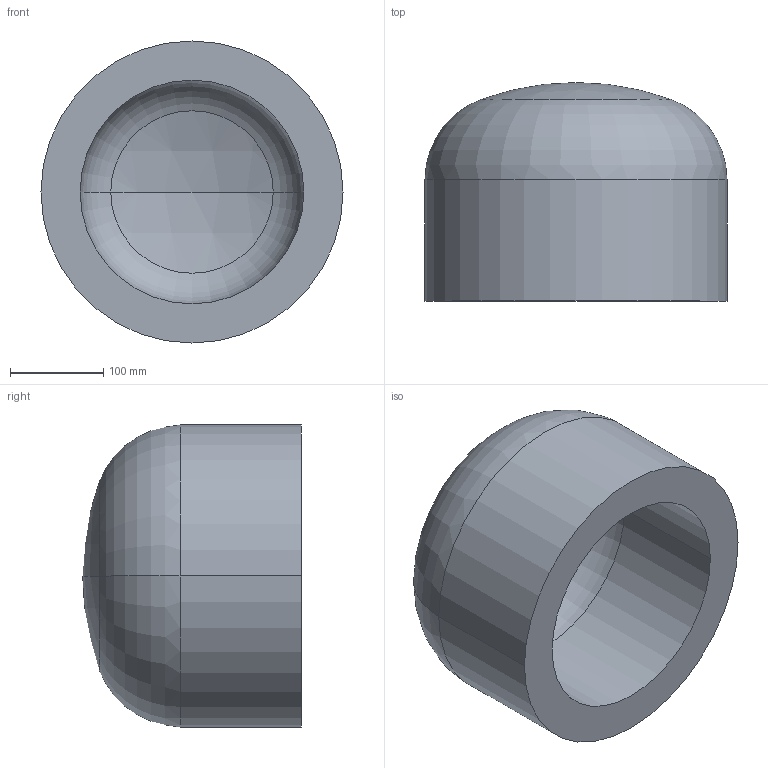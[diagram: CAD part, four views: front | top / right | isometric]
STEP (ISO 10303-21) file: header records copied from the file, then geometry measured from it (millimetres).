
FILE_DESCRIPTION (( 'STEP AP203' ), '1' );
FILE_NAME ('DIN 28013 Korbbogenform_-_Boden DIN 28013 - 323,9 x 130 - I - s=42.step', '2016-07-01T07:45:49', ( '' ), ( '' ), 'SwSTEP 2.0', 'SolidWorks 2013', '' );
FILE_SCHEMA (( 'CONFIG_CONTROL_DESIGN' ));
Length unit declared in the file: millimetre
Products named in the file (1): DIN 28013 Korbbogenform_-_Boden DIN 28013 - 323,9 x 130 - I - s=42
Bounding box: 323.9 x 234.37 x 323.9 mm (x, y, z)
Volume: 8933786.8 mm3; surface area: 466308.7 mm2
Topology: 1 solids, 1 shells, 13 faces, 24 edges, 14 vertices
Faces by surface type: torus 4, cylinder 4, sphere 4, plane 1
Entity records: 407 total; most frequent: DIRECTION 72, CARTESIAN_POINT 52, ORIENTED_EDGE 48, AXIS2_PLACEMENT_3D 34, EDGE_CURVE 24, CIRCLE 20, VERTEX_POINT 14, EDGE_LOOP 14
